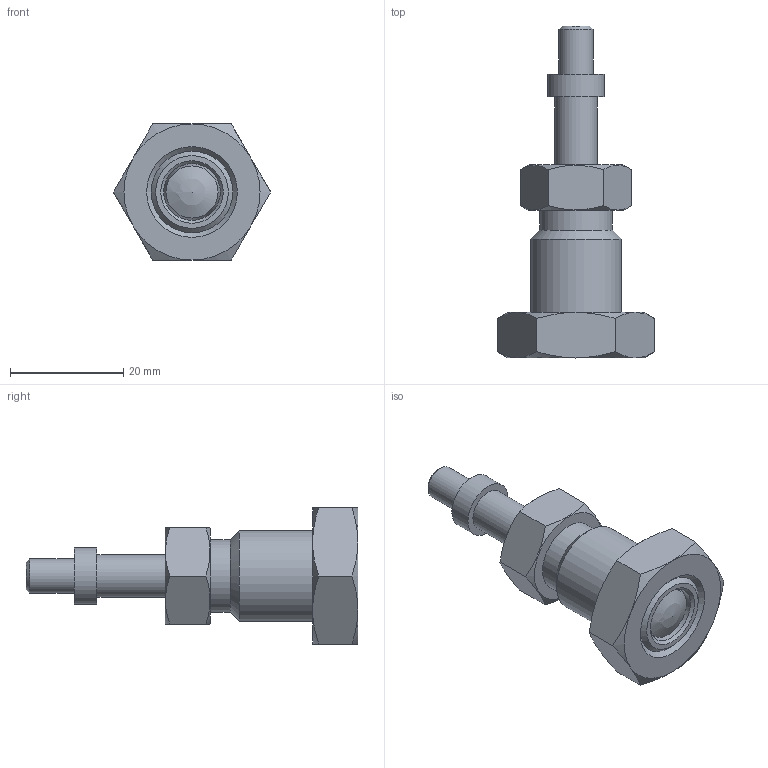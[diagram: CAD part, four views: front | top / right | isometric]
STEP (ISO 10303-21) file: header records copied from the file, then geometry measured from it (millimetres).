
FILE_DESCRIPTION( ( 'STEP AP203' ), '1' );
FILE_NAME( 'C:/Temp/Ganter_Step_05_03_2020/data/3_1/gn817/gn817_ni-rastbolzen/Stainless Steel-Indexing plunger GN 817-10-12-GK-NI (activated-0).stp', '2020-03-12T09:00:06', ( 'License CC BY-ND 4.0' ), ( 'CADENAS' ), ' ', 'PARTsolutions', ' ' );
FILE_SCHEMA( ( 'CONFIG_CONTROL_DESIGN' ) );
Length unit declared in the file: millimetre
Products named in the file (5): Stainless Steel-Indexing plunger GN 817-10-12-GK-NI (activated-0); _Stainless steel-Indexing plunger GN 817-10-12-GK-NI (activated-0)-d; _Stainless steel-Indexing plunger GN 817-10-12-B-NI-2; _Stainless Steel-Indexing plunger GN 817-10-12-G-NI-6; _Stainless steel-Indexing plunger GN 817-10-12-BK-NI (deactivated-0)-3
Assembly tree (4 placements, depth 2):
  Stainless Steel-Indexing plunger GN 817-10-12-GK-NI (activated-0)
    _Stainless steel-Indexing plunger GN 817-10-12-GK-NI (activated-0)-d
    _Stainless steel-Indexing plunger GN 817-10-12-B-NI-2
    _Stainless Steel-Indexing plunger GN 817-10-12-G-NI-6
    _Stainless steel-Indexing plunger GN 817-10-12-BK-NI (deactivated-0)-3
Bounding box: 27.71 x 58.5 x 24 mm (x, y, z)
Volume: 10489 mm3; surface area: 6579.3 mm2
Topology: 3 solids, 3 shells, 56 faces, 113 edges, 68 vertices
Faces by surface type: plane 22, cone 22, cylinder 9, torus 2, sphere 1
Full cylindrical faces by diameter (mm): 6 x1, 7.5 x2, 10 x3, 12.8 x1, 14.376 x1, 16 x1
Entity records: 1688 total; most frequent: CARTESIAN_POINT 485, DIRECTION 216, ORIENTED_EDGE 178, AXIS2_PLACEMENT_3D 102, EDGE_CURVE 89, EDGE_LOOP 86, FACE_OUTER_BOUND 67, VERTEX_POINT 66
